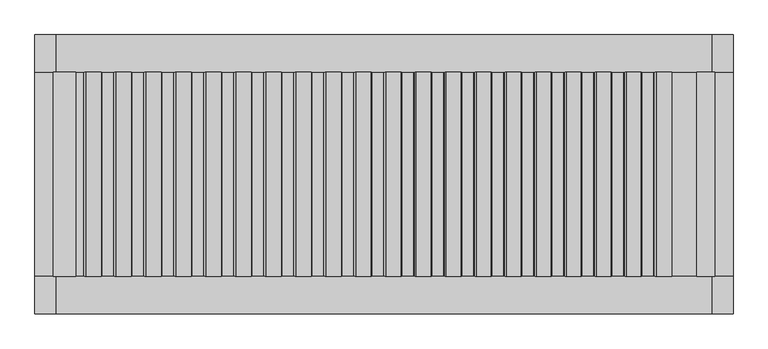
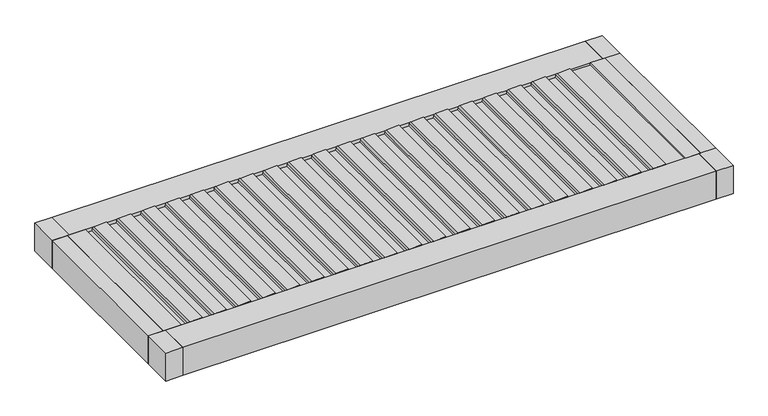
"""IFC4 building model written with IfcOpenShell, lengths in millimetres: proxy geometry, Renson_Aero_Skye_Patio covers : Aero Skye - Single."""

from ifc_helpers import new_model, si_unit, point, frame, frame_2d, origin, place, context, project, spatial, polyline, circle_curve, trimmed, segment, composite_curve, outline, extrude, source, transform, mapped, element, save


def generic_models_8f469894(model_context):
    return source(origin(), model_context, "Body", "SweptSolid", [
        extrude(outline(composite_curve([segment(polyline([(-41.65, 1816.1728722), (-13.98802, 1818.5929819), (-12.6029636, 1847.4282323), (6.8911096, 1843.9909012), (1.6075693, 1733.9937864)]), True, "CONTINUOUS"), segment(trimmed(circle_curve(frame_2d((-13.3751565, 1734.7134583)), 15.0), [point((1.6075693, 1733.9937864))], [point((-10.7704338, 1719.941342))], False, "CARTESIAN"), True, "CONTINUOUS"), segment(polyline([(-10.7704338, 1719.941342), (-30.0, 1716.5506507), (-30.0, 1628.8148746), (-12.9211763, 1625.8034172), (-13.6549818, 1610.5264468), (-41.65, 1608.0772), (-41.65, 1816.1728722)]), True, "CONTINUOUS")], self_intersect=False)), frame((0.0, -732.0, 0.0), z_axis=(0.0, 1.0, 0.0), x_axis=(0.0, 0.0, 1.0)), (0.0, 0.0, 1.0), 1464.0),
        extrude(outline(composite_curve([segment(polyline([(-41.65, 1601.1637734), (-13.98802, 1603.5838831), (-12.6029636, 1632.4191335), (6.8911096, 1628.9818025), (1.6075693, 1518.9846876)]), True, "CONTINUOUS"), segment(trimmed(circle_curve(frame_2d((-13.3751565, 1519.7043596)), 15.0), [point((1.6075693, 1518.9846876))], [point((-10.7704338, 1504.9322433))], False, "CARTESIAN"), True, "CONTINUOUS"), segment(polyline([(-10.7704338, 1504.9322433), (-30.0, 1501.5415519), (-30.0, 1413.8057759), (-12.9211763, 1410.7943185), (-13.6549818, 1395.517348), (-41.65, 1393.0681013), (-41.65, 1601.1637734)]), True, "CONTINUOUS")], self_intersect=False)), frame((0.0, -732.0, 0.0), z_axis=(0.0, 1.0, 0.0), x_axis=(0.0, 0.0, 1.0)), (0.0, 0.0, 1.0), 1464.0),
        extrude(outline(composite_curve([segment(polyline([(-41.65, 1386.1546747), (-13.98802, 1388.5747843), (-12.6029636, 1417.4100348), (6.8911096, 1413.9727037), (1.6075693, 1303.9755889)]), True, "CONTINUOUS"), segment(trimmed(circle_curve(frame_2d((-13.3751565, 1304.6952608)), 15.0), [point((1.6075693, 1303.9755889))], [point((-10.7704338, 1289.9231445))], False, "CARTESIAN"), True, "CONTINUOUS"), segment(polyline([(-10.7704338, 1289.9231445), (-30.0, 1286.5324532), (-30.0, 1198.7966771), (-12.9211763, 1195.7852197), (-13.6549818, 1180.5082492), (-41.65, 1178.0590025), (-41.65, 1386.1546747)]), True, "CONTINUOUS")], self_intersect=False)), frame((0.0, -732.0, 0.0), z_axis=(0.0, 1.0, 0.0), x_axis=(0.0, 0.0, 1.0)), (0.0, 0.0, 1.0), 1464.0),
        extrude(outline(composite_curve([segment(polyline([(-41.65, 1171.1455759), (-13.98802, 1173.5656856), (-12.6029636, 1202.400936), (6.8911096, 1198.9636049), (1.6075693, 1088.9664901)]), True, "CONTINUOUS"), segment(trimmed(circle_curve(frame_2d((-13.3751565, 1089.686162)), 15.0), [point((1.6075693, 1088.9664901))], [point((-10.7704338, 1074.9140457))], False, "CARTESIAN"), True, "CONTINUOUS"), segment(polyline([(-10.7704338, 1074.9140457), (-30.0, 1071.5233544), (-30.0, 983.7875784), (-12.9211763, 980.7761209), (-13.6549818, 965.4991505), (-41.65, 963.0499037), (-41.65, 1171.1455759)]), True, "CONTINUOUS")], self_intersect=False)), frame((0.0, -732.0, 0.0), z_axis=(0.0, 1.0, 0.0), x_axis=(0.0, 0.0, 1.0)), (0.0, 0.0, 1.0), 1464.0),
        extrude(outline(composite_curve([segment(polyline([(-41.65, 956.1364771), (-13.98802, 958.5565868), (-12.6029636, 987.3918373), (6.8911096, 983.9545062), (1.6075693, 873.9573913)]), True, "CONTINUOUS"), segment(trimmed(circle_curve(frame_2d((-13.3751565, 874.6770633)), 15.0), [point((1.6075693, 873.9573913))], [point((-10.7704338, 859.904947))], False, "CARTESIAN"), True, "CONTINUOUS"), segment(polyline([(-10.7704338, 859.904947), (-30.0, 856.5142556), (-30.0, 768.7784796), (-12.9211763, 765.7670222), (-13.6549818, 750.4900517), (-41.65, 748.040805), (-41.65, 956.1364771)]), True, "CONTINUOUS")], self_intersect=False)), frame((0.0, -732.0, 0.0), z_axis=(0.0, 1.0, 0.0), x_axis=(0.0, 0.0, 1.0)), (0.0, 0.0, 1.0), 1464.0),
        extrude(outline(composite_curve([segment(polyline([(-41.65, 741.1273784), (-13.98802, 743.547488), (-12.6029636, 772.3827385), (6.8911096, 768.9454074), (1.6075693, 658.9482926)]), True, "CONTINUOUS"), segment(trimmed(circle_curve(frame_2d((-13.3751565, 659.6679645)), 15.0), [point((1.6075693, 658.9482926))], [point((-10.7704338, 644.8958482))], False, "CARTESIAN"), True, "CONTINUOUS"), segment(polyline([(-10.7704338, 644.8958482), (-30.0, 641.5051569), (-30.0, 553.7693808), (-12.9211763, 550.7579234), (-13.6549818, 535.4809529), (-41.65, 533.0317062), (-41.65, 741.1273784)]), True, "CONTINUOUS")], self_intersect=False)), frame((0.0, -732.0, 0.0), z_axis=(0.0, 1.0, 0.0), x_axis=(0.0, 0.0, 1.0)), (0.0, 0.0, 1.0), 1464.0),
        extrude(outline(composite_curve([segment(polyline([(-41.65, 526.1182796), (-13.98802, 528.5383893), (-12.6029636, 557.3736397), (6.8911096, 553.9363087), (1.6075693, 443.9391938)]), True, "CONTINUOUS"), segment(trimmed(circle_curve(frame_2d((-13.3751565, 444.6588657)), 15.0), [point((1.6075693, 443.9391938))], [point((-10.7704338, 429.8867494))], False, "CARTESIAN"), True, "CONTINUOUS"), segment(polyline([(-10.7704338, 429.8867494), (-30.0, 426.4960581), (-30.0, 338.7602821), (-12.9211763, 335.7488247), (-13.6549818, 320.4718542), (-41.65, 318.0226075), (-41.65, 526.1182796)]), True, "CONTINUOUS")], self_intersect=False)), frame((0.0, -732.0, 0.0), z_axis=(0.0, 1.0, 0.0), x_axis=(0.0, 0.0, 1.0)), (0.0, 0.0, 1.0), 1464.0),
        extrude(outline(composite_curve([segment(polyline([(-41.65, 311.1091809), (-13.98802, 313.5292905), (-12.6029636, 342.364541), (6.8911096, 338.9272099), (1.6075693, 228.930095)]), True, "CONTINUOUS"), segment(trimmed(circle_curve(frame_2d((-13.3751565, 229.649767)), 15.0), [point((1.6075693, 228.930095))], [point((-10.7704338, 214.8776507))], False, "CARTESIAN"), True, "CONTINUOUS"), segment(polyline([(-10.7704338, 214.8776507), (-30.0, 211.4869593), (-30.0, 123.7511833), (-12.9211763, 120.7397259), (-13.6549818, 105.4627554), (-41.65, 103.0135087), (-41.65, 311.1091809)]), True, "CONTINUOUS")], self_intersect=False)), frame((0.0, -732.0, 0.0), z_axis=(0.0, 1.0, 0.0), x_axis=(0.0, 0.0, 1.0)), (0.0, 0.0, 1.0), 1464.0),
        extrude(outline(composite_curve([segment(polyline([(-41.65, 96.1000821), (-13.98802, 98.5201917), (-12.6029636, 127.3554422), (6.8911096, 123.9181111), (1.6075693, 13.9209963)]), True, "CONTINUOUS"), segment(trimmed(circle_curve(frame_2d((-13.3751565, 14.6406682)), 15.0), [point((1.6075693, 13.9209963))], [point((-10.7704338, -0.1314481))], False, "CARTESIAN"), True, "CONTINUOUS"), segment(polyline([(-10.7704338, -0.1314481), (-30.0, -3.5221394), (-30.0, -91.2579155), (-12.9211763, -94.2693729), (-13.6549818, -109.5463433), (-41.65, -111.9955901), (-41.65, 96.1000821)]), True, "CONTINUOUS")], self_intersect=False)), frame((0.0, -732.0, 0.0), z_axis=(0.0, 1.0, 0.0), x_axis=(0.0, 0.0, 1.0)), (0.0, 0.0, 1.0), 1464.0),
        extrude(outline(composite_curve([segment(polyline([(-41.65, -118.9090167), (-13.98802, -116.488907), (-12.6029636, -87.6536566), (6.8911096, -91.0909876), (1.6075693, -201.0881025)]), True, "CONTINUOUS"), segment(trimmed(circle_curve(frame_2d((-13.3751565, -200.3684306)), 15.0), [point((1.6075693, -201.0881025))], [point((-10.7704338, -215.1405469))], False, "CARTESIAN"), True, "CONTINUOUS"), segment(polyline([(-10.7704338, -215.1405469), (-30.0, -218.5312382), (-30.0, -306.2670142), (-12.9211763, -309.2784716), (-13.6549818, -324.5554421), (-41.65, -327.0046888), (-41.65, -118.9090167)]), True, "CONTINUOUS")], self_intersect=False)), frame((0.0, -732.0, 0.0), z_axis=(0.0, 1.0, 0.0), x_axis=(0.0, 0.0, 1.0)), (0.0, 0.0, 1.0), 1464.0),
        extrude(outline(composite_curve([segment(polyline([(-41.65, -333.9181154), (-13.98802, -331.4980058), (-12.6029636, -302.6627553), (6.8911096, -306.1000864), (1.6075693, -416.0972012)]), True, "CONTINUOUS"), segment(trimmed(circle_curve(frame_2d((-13.3751565, -415.3775293)), 15.0), [point((1.6075693, -416.0972012))], [point((-10.7704338, -430.1496456))], False, "CARTESIAN"), True, "CONTINUOUS"), segment(polyline([(-10.7704338, -430.1496456), (-30.0, -433.540337), (-30.0, -521.276113), (-12.9211763, -524.2875704), (-13.6549818, -539.5645409), (-41.65, -542.0137876), (-41.65, -333.9181154)]), True, "CONTINUOUS")], self_intersect=False)), frame((0.0, -732.0, 0.0), z_axis=(0.0, 1.0, 0.0), x_axis=(0.0, 0.0, 1.0)), (0.0, 0.0, 1.0), 1464.0),
        extrude(outline(composite_curve([segment(polyline([(-41.65, -548.9272142), (-13.98802, -546.5071045), (-12.6029636, -517.6718541), (6.8911096, -521.1091852), (1.6075693, -631.1063)]), True, "CONTINUOUS"), segment(trimmed(circle_curve(frame_2d((-13.3751565, -630.3866281)), 15.0), [point((1.6075693, -631.1063))], [point((-10.7704338, -645.1587444))], False, "CARTESIAN"), True, "CONTINUOUS"), segment(polyline([(-10.7704338, -645.1587444), (-30.0, -648.5494357), (-30.0, -736.2852117), (-12.9211763, -739.2966692), (-13.6549818, -754.5736396), (-41.65, -757.0228864), (-41.65, -548.9272142)]), True, "CONTINUOUS")], self_intersect=False)), frame((0.0, -732.0, 0.0), z_axis=(0.0, 1.0, 0.0), x_axis=(0.0, 0.0, 1.0)), (0.0, 0.0, 1.0), 1464.0),
        extrude(outline(composite_curve([segment(polyline([(-41.65, -763.936313), (-13.98802, -761.5162033), (-12.6029636, -732.6809528), (6.8911096, -736.1182839), (1.6075693, -846.1153988)]), True, "CONTINUOUS"), segment(trimmed(circle_curve(frame_2d((-13.3751565, -845.3957268)), 15.0), [point((1.6075693, -846.1153988))], [point((-10.7704338, -860.1678431))], False, "CARTESIAN"), True, "CONTINUOUS"), segment(polyline([(-10.7704338, -860.1678431), (-30.0, -863.5585345), (-30.0, -951.2943105), (-12.9211763, -954.3057679), (-13.6549818, -969.5827384), (-41.65, -972.0319851), (-41.65, -763.936313)]), True, "CONTINUOUS")], self_intersect=False)), frame((0.0, -732.0, 0.0), z_axis=(0.0, 1.0, 0.0), x_axis=(0.0, 0.0, 1.0)), (0.0, 0.0, 1.0), 1464.0),
        extrude(outline(composite_curve([segment(polyline([(-41.65, -978.9454117), (-13.98802, -976.5253021), (-12.6029636, -947.6900516), (6.8911096, -951.1273827), (1.6075693, -1061.1244975)]), True, "CONTINUOUS"), segment(trimmed(circle_curve(frame_2d((-13.3751565, -1060.4048256)), 15.0), [point((1.6075693, -1061.1244975))], [point((-10.7704338, -1075.1769419))], False, "CARTESIAN"), True, "CONTINUOUS"), segment(polyline([(-10.7704338, -1075.1769419), (-30.0, -1078.5676332), (-30.0, -1166.3034093), (-12.9211763, -1169.3148667), (-13.6549818, -1184.5918372), (-41.65, -1187.0410839), (-41.65, -978.9454117)]), True, "CONTINUOUS")], self_intersect=False)), frame((0.0, -732.0, 0.0), z_axis=(0.0, 1.0, 0.0), x_axis=(0.0, 0.0, 1.0)), (0.0, 0.0, 1.0), 1464.0),
        extrude(outline(composite_curve([segment(polyline([(-41.65, -1193.9545105), (-13.98802, -1191.5344008), (-12.6029636, -1162.6991504), (6.8911096, -1166.1364815), (1.6075693, -1276.1335963)]), True, "CONTINUOUS"), segment(trimmed(circle_curve(frame_2d((-13.3751565, -1275.4139244)), 15.0), [point((1.6075693, -1276.1335963))], [point((-10.7704338, -1290.1860407))], False, "CARTESIAN"), True, "CONTINUOUS"), segment(polyline([(-10.7704338, -1290.1860407), (-30.0, -1293.576732), (-30.0, -1381.312508), (-12.9211763, -1384.3239655), (-13.6549818, -1399.6009359), (-41.65, -1402.0501827), (-41.65, -1193.9545105)]), True, "CONTINUOUS")], self_intersect=False)), frame((0.0, -732.0, 0.0), z_axis=(0.0, 1.0, 0.0), x_axis=(0.0, 0.0, 1.0)), (0.0, 0.0, 1.0), 1464.0),
        extrude(outline(composite_curve([segment(polyline([(-41.65, -1408.9636093), (-13.98802, -1406.5434996), (-12.6029636, -1377.7082491), (6.8911096, -1381.1455802), (1.6075693, -1491.1426951)]), True, "CONTINUOUS"), segment(trimmed(circle_curve(frame_2d((-13.3751565, -1490.4230231)), 15.0), [point((1.6075693, -1491.1426951))], [point((-10.7704338, -1505.1951394))], False, "CARTESIAN"), True, "CONTINUOUS"), segment(polyline([(-10.7704338, -1505.1951394), (-30.0, -1508.5858308), (-30.0, -1596.3216068), (-12.9211763, -1599.3330642), (-13.6549818, -1614.6100347), (-41.65, -1617.0592814), (-41.65, -1408.9636093)]), True, "CONTINUOUS")], self_intersect=False)), frame((0.0, -732.0, 0.0), z_axis=(0.0, 1.0, 0.0), x_axis=(0.0, 0.0, 1.0)), (0.0, 0.0, 1.0), 1464.0),
        extrude(outline(composite_curve([segment(polyline([(-41.65, -1623.972708), (-13.98802, -1621.5525984), (-12.6029636, -1592.7173479), (6.8911096, -1596.154679), (1.6075693, -1706.1517938)]), True, "CONTINUOUS"), segment(trimmed(circle_curve(frame_2d((-13.3751565, -1705.4321219)), 15.0), [point((1.6075693, -1706.1517938))], [point((-10.7704338, -1720.2042382))], False, "CARTESIAN"), True, "CONTINUOUS"), segment(polyline([(-10.7704338, -1720.2042382), (-30.0, -1723.5949295), (-30.0, -1811.3307056), (-12.9211763, -1814.342163), (-13.6549818, -1829.6191335), (-41.65, -1832.0683802), (-41.65, -1623.972708)]), True, "CONTINUOUS")], self_intersect=False)), frame((0.0, -732.0, 0.0), z_axis=(0.0, 1.0, 0.0), x_axis=(0.0, 0.0, 1.0)), (0.0, 0.0, 1.0), 1464.0),
        extrude(outline(composite_curve([segment(polyline([(-41.65, -1838.9818068), (-13.98802, -1836.5616971), (-12.6029636, -1807.7264467), (6.8911096, -1811.1637777), (1.6075693, -1921.1608926)]), True, "CONTINUOUS"), segment(trimmed(circle_curve(frame_2d((-13.3751565, -1920.4412207)), 15.0), [point((1.6075693, -1921.1608926))], [point((-10.7704338, -1935.213337))], False, "CARTESIAN"), True, "CONTINUOUS"), segment(polyline([(-10.7704338, -1935.213337), (-30.0, -1938.6040283), (-30.0, -2026.3398043), (-12.9211763, -2029.3512617), (-13.6549818, -2044.6282322), (-41.65, -2047.0774789), (-41.65, -1838.9818068)]), True, "CONTINUOUS")], self_intersect=False)), frame((0.0, -732.0, 0.0), z_axis=(0.0, 1.0, 0.0), x_axis=(0.0, 0.0, 1.0)), (0.0, 0.0, 1.0), 1464.0),
        extrude(outline(composite_curve([segment(polyline([(-41.65, 2031.181971), (-13.98802, 2033.6020806), (-12.6029636, 2062.4373311), (6.8911096, 2059.0), (1.6075693, 1949.0028852)]), True, "CONTINUOUS"), segment(trimmed(circle_curve(frame_2d((-13.3751565, 1949.7225571)), 15.0), [point((1.6075693, 1949.0028852))], [point((-10.7704338, 1934.9504408))], False, "CARTESIAN"), True, "CONTINUOUS"), segment(polyline([(-10.7704338, 1934.9504408), (-30.0, 1931.5597494), (-30.0, 1843.8239734), (-12.9211763, 1840.812516), (-13.6549818, 1825.5355455), (-41.65, 1823.0862988), (-41.65, 2031.181971)]), True, "CONTINUOUS")], self_intersect=False)), frame((0.0, -732.0, 0.0), z_axis=(0.0, 1.0, 0.0), x_axis=(0.0, 0.0, 1.0)), (0.0, 0.0, 1.0), 1464.0),
        extrude(outline(composite_curve([segment(polyline([(-41.65, -2053.9909055), (-13.98802, -2051.5707959), (-12.6029636, -2022.7355454), (6.8911096, -2026.1728765), (1.6075693, -2136.1699914)]), True, "CONTINUOUS"), segment(trimmed(circle_curve(frame_2d((-13.3751565, -2135.4503194)), 15.0), [point((1.6075693, -2136.1699914))], [point((-10.7704338, -2150.2224357))], False, "CARTESIAN"), True, "CONTINUOUS"), segment(polyline([(-10.7704338, -2150.2224357), (-30.0, -2153.6131271), (-30.0, -2241.3489031), (-12.9211763, -2244.3603605), (-13.6549818, -2259.637331), (-41.65, -2262.0865777), (-41.65, -2053.9909055)]), True, "CONTINUOUS")], self_intersect=False)), frame((0.0, -732.0, 0.0), z_axis=(0.0, 1.0, 0.0), x_axis=(0.0, 0.0, 1.0)), (0.0, 0.0, 1.0), 1464.0),
        extrude(outline(polyline([(-63.35, 2369.0), (0.0, 2369.0), (0.0, 2239.5), (-20.0, 2239.5), (-20.0, 2059.0), (-44.0, 2059.0), (-44.0, 2209.0), (-63.35, 2209.0), (-63.35, 2369.0)])), frame((0.0, -732.0, 0.0), z_axis=(0.0, 1.0, 0.0), x_axis=(0.0, 0.0, 1.0)), (0.0, 0.0, 1.0), 1464.0),
        extrude(outline(polyline([(0.0, -2209.0), (0.0, -2369.0), (-44.0, -2369.0), (-44.0, -2236.3193336), (-10.8283397, -2233.4171894), (-9.655498, -2209.0), (0.0, -2209.0)])), frame((0.0, -732.0, 0.0), z_axis=(0.0, 1.0, 0.0), x_axis=(0.0, 0.0, 1.0)), (0.0, 0.0, 1.0), 1464.0),
        extrude(outline(polyline([(2500.0, -1000.0), (2350.0, -1000.0), (2350.0, -732.0), (2500.0, -732.0), (2500.0, -1000.0)])), frame((0.0, 0.0, -260.0), z_axis=(0.0, 0.0, 1.0), x_axis=(1.0, 0.0, 0.0)), (0.0, 0.0, 1.0), 260.0),
        extrude(outline(polyline([(-2500.0, -1000.0), (-2500.0, -732.0), (-2350.0, -732.0), (-2350.0, -1000.0), (-2500.0, -1000.0)])), frame((0.0, 0.0, -260.0), z_axis=(0.0, 0.0, 1.0), x_axis=(1.0, 0.0, 0.0)), (0.0, 0.0, 1.0), 260.0),
        extrude(outline(polyline([(-2350.0, 732.0), (-2500.0, 732.0), (-2500.0, 1000.0), (-2350.0, 1000.0), (-2350.0, 732.0)])), frame((0.0, 0.0, -260.0), z_axis=(0.0, 0.0, 1.0), x_axis=(1.0, 0.0, 0.0)), (0.0, 0.0, 1.0), 260.0),
        extrude(outline(polyline([(2500.0, 1000.0), (2500.0, 732.0), (2350.0, 732.0), (2350.0, 1000.0), (2500.0, 1000.0)])), frame((0.0, 0.0, -260.0), z_axis=(0.0, 0.0, 1.0), x_axis=(1.0, 0.0, 0.0)), (0.0, 0.0, 1.0), 260.0),
        extrude(outline(polyline([(-732.0, -188.0), (-670.0, -188.0), (-670.0, -260.0), (-1000.0, -260.0), (-1000.0, 0.0), (-732.0, 0.0), (-732.0, -188.0)])), frame((-2350.0, 0.0, 0.0), z_axis=(1.0, 0.0, 0.0), x_axis=(0.0, 1.0, 0.0)), (0.0, 0.0, 1.0), 4700.0),
        extrude(outline(polyline([(732.0, -188.0), (732.0, 0.0), (1000.0, 0.0), (1000.0, -260.0), (670.0, -260.0), (670.0, -188.0), (732.0, -188.0)])), frame((-2350.0, 0.0, 0.0), z_axis=(1.0, 0.0, 0.0), x_axis=(0.0, 1.0, 0.0)), (0.0, 0.0, 1.0), 4700.0),
        extrude(outline(polyline([(-64.0, 2369.0), (-64.0, 2350.0), (-260.0, 2350.0), (-260.0, 2500.0), (0.0, 2500.0), (0.0, 2369.0), (-64.0, 2369.0)])), frame((0.0, -732.0, 0.0), z_axis=(0.0, 1.0, 0.0), x_axis=(0.0, 0.0, 1.0)), (0.0, 0.0, 1.0), 1464.0),
        extrude(outline(polyline([(-64.0, -2369.0), (0.0, -2369.0), (0.0, -2500.0), (-260.0, -2500.0), (-260.0, -2350.0), (-64.0, -2350.0), (-64.0, -2369.0)])), frame((0.0, -732.0, 0.0), z_axis=(0.0, 1.0, 0.0), x_axis=(0.0, 0.0, 1.0)), (0.0, 0.0, 1.0), 1464.0),
    ])


if __name__ == "__main__":
    model = new_model("IFC4")
    model_context = context("Model", 3, world=origin())
    ifc_project = project(units=[si_unit("LENGTHUNIT", "METRE", prefix="MILLI")], contexts=[model_context])
    site = spatial("IfcSite", under=ifc_project)
    building = spatial("IfcBuilding", under=site)
    placement = place(None, origin())
    generic_models_shape = generic_models_8f469894(model_context)
    element("IfcBuildingElementProxy", 1, Name="Renson_Aero_Skye_Patio covers : Aero Skye - Single", ObjectType="Renson_Aero_Skye_Patio covers : Aero Skye - Single", at=placement, inside=building, context=model_context, shape_type="MappedRepresentation", body=[
        mapped(generic_models_shape, transform((0.0, 0.0, 0.0), x_axis=(1.0, 0.0, 0.0), y_axis=(0.0, 1.0, 0.0), z_axis=(0.0, 0.0, 1.0))),
    ])
    save(model, "model.ifc")
